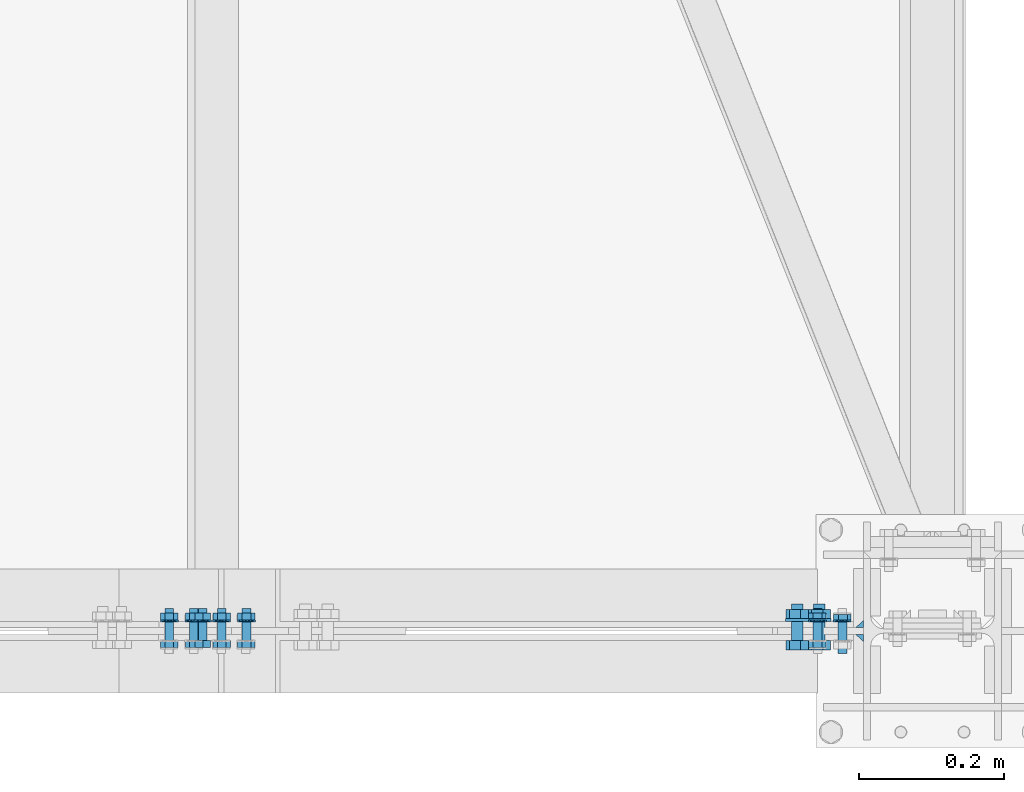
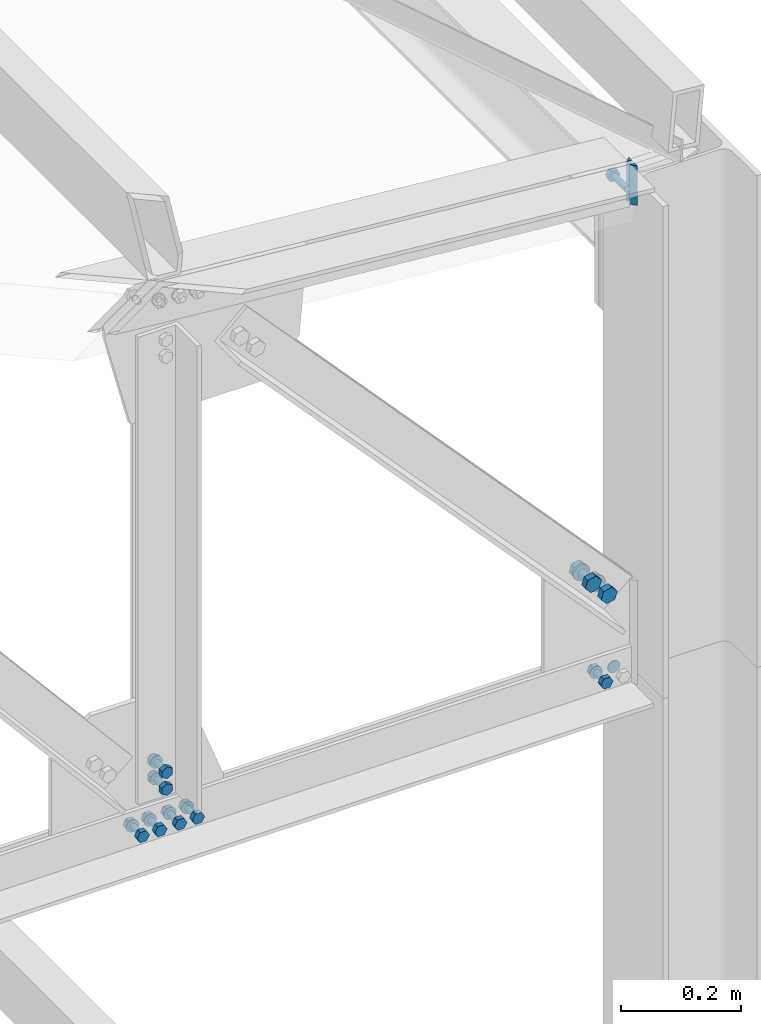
# One storey, part 95 of 251: 39 mechanical fasteners, 2 fasteners.
"""IFC4 building model written with IfcOpenShell, lengths in metres."""

from ifc_helpers import new_model, si_unit, frame, origin_with_axes, place, context, project, spatial, polyline, outline, extrude, type_object, element, save


model = new_model("IFC4")

# Units and contexts
model_context = context("Model", 3, precision=1e-05, world=origin_with_axes())
ifc_project = project(units=[si_unit("LENGTHUNIT", "METRE"), si_unit("AREAUNIT", "SQUARE_METRE"), si_unit("VOLUMEUNIT", "CUBIC_METRE"), si_unit("MASSUNIT", "GRAM", prefix="KILO"), si_unit("TIMEUNIT", "SECOND"), si_unit("PLANEANGLEUNIT", "RADIAN"), si_unit("SOLIDANGLEUNIT", "STERADIAN"), si_unit("THERMODYNAMICTEMPERATUREUNIT", "DEGREE_CELSIUS")], contexts=[model_context])

# Site, building, storey
placement_1 = place(None, origin_with_axes())
site = spatial("IfcSite", under=ifc_project, at=placement_1, Name="Italia", CompositionType="ELEMENT")
building = spatial("IfcBuilding", under=site, at=placement_1, Name="Deposito", CompositionType="ELEMENT")
storey = spatial("IfcBuildingStorey", under=building, at=placement_1, Name="Storey 0", CompositionType="ELEMENT", Elevation=0.0)

# Mechanical fasteners
mechanical_fastener_type_1 = type_object("IfcMechanicalFastenerType", Name="Reticolare 2", PredefinedType="BOLT")
placement_2 = place(placement_1, origin_with_axes())
mechanical_fastener_1_placement = place(placement_2, origin_with_axes())
element("IfcMechanicalFastener", 1, at=mechanical_fastener_1_placement, inside=storey, type_object=mechanical_fastener_type_1, Name="Reticolare 2", NominalDiameter=0.024, context=model_context, shape_type="SweptSolid", body=[
    extrude(outline(polyline([(0.0, 0.0), (-0.000408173, -0.00310564), (-0.00160599, -0.00600004), (-0.00351334, -0.00848532), (-0.00599861, -0.0103922), (-0.00889397, -0.011591), (-0.0119991, -0.0120001), (-0.0151043, -0.011591), (-0.0179996, -0.0103922), (-0.0204849, -0.00848532), (-0.0223923, -0.00600004), (-0.0235901, -0.00310564), (-0.0239983, 0.0), (-0.0235901, 0.00310564), (-0.0223923, 0.00600004), (-0.0204849, 0.00848532), (-0.0179996, 0.0103922), (-0.0151043, 0.011591), (-0.0119991, 0.0120001), (-0.00889397, 0.011591), (-0.00599861, 0.0103922), (-0.00351334, 0.00848532), (-0.00160599, 0.00600004), (-0.000408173, 0.00310564), (0.0, 0.0)])), frame((19.8879, 0.015, 5.007), z_axis=(0.0, -1.0, 0.0), x_axis=(1.0, 0.0, 0.0)), (0.0, 0.0, 1.0), 0.002),
])
mechanical_fastener_type_2 = type_object("IfcMechanicalFastenerType", Name="Reticolare 2", PredefinedType="BOLT")
mechanical_fastener_2_placement = place(placement_2, origin_with_axes())
element("IfcMechanicalFastener", 2, at=mechanical_fastener_2_placement, inside=storey, type_object=mechanical_fastener_type_2, Name="Reticolare 2", NominalDiameter=0.0119991, context=model_context, shape_type="SweptSolid", body=[
    extrude(outline(polyline([(0.0, 0.0), (-0.0119991, 0.0), (-0.0179996, 0.0103922), (-0.0119991, 0.0207844), (0.0, 0.0207844), (0.00600052, 0.0103922), (0.0, 0.0)])), frame((19.8479, -0.013, 4.99661), z_axis=(0.0, -1.0, 0.0), x_axis=(1.0, 0.0, 0.0)), (0.0, 0.0, 1.0), 0.0096),
])
mechanical_fastener_type_3 = type_object("IfcMechanicalFastenerType", Name="Reticolare 2", PredefinedType="BOLT")
mechanical_fastener_3_placement = place(placement_2, origin_with_axes())
element("IfcMechanicalFastener", 3, at=mechanical_fastener_3_placement, inside=storey, type_object=mechanical_fastener_type_3, Name="Reticolare 2", NominalDiameter=0.012, context=model_context, shape_type="SweptSolid", body=[
    extrude(outline(polyline([(0.0, 0.0), (-0.000204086, -0.00155306), (-0.000804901, -0.00299978), (-0.00175858, -0.00424242), (-0.00300026, -0.00519609), (-0.00444794, -0.00579548), (-0.00600052, -0.00600004), (-0.0075531, -0.00579548), (-0.00900078, -0.00519609), (-0.0102425, -0.00424242), (-0.0111961, -0.00299978), (-0.011797, -0.00155306), (-0.012001, 0.0), (-0.011797, 0.00155306), (-0.0111961, 0.00299978), (-0.0102425, 0.00424242), (-0.00900078, 0.00519609), (-0.0075531, 0.00579548), (-0.00600052, 0.00600004), (-0.00444794, 0.00579548), (-0.00300026, 0.00519609), (-0.00175858, 0.00424242), (-0.000804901, 0.00299978), (-0.000204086, 0.00155306), (0.0, 0.0)])), frame((19.8479, 0.031, 5.007), z_axis=(0.0, -1.0, 0.0), x_axis=(1.0, 0.0, 0.0)), (0.0, 0.0, 1.0), 0.044),
])
mechanical_fastener_type_4 = type_object("IfcMechanicalFastenerType", Name="Reticolare 2", PredefinedType="BOLT")
mechanical_fastener_4_placement = place(placement_2, origin_with_axes())
element("IfcMechanicalFastener", 4, at=mechanical_fastener_4_placement, inside=storey, type_object=mechanical_fastener_type_4, Name="Reticolare 2", NominalDiameter=0.0119991, context=model_context, shape_type="SweptSolid", body=[
    extrude(outline(polyline([(0.0, 0.0), (-0.0119991, 0.0), (-0.0179996, 0.0103922), (-0.0119991, 0.0207844), (0.0, 0.0207844), (0.00600052, 0.0103922), (0.0, 0.0)])), frame((19.8479, 0.0246, 4.99661), z_axis=(0.0, -1.0, 0.0), x_axis=(1.0, 0.0, 0.0)), (0.0, 0.0, 1.0), 0.0096),
])
mechanical_fastener_type_5 = type_object("IfcMechanicalFastenerType", Name="Reticolare 2", PredefinedType="BOLT")
mechanical_fastener_5_placement = place(placement_2, origin_with_axes())
element("IfcMechanicalFastener", 5, at=mechanical_fastener_5_placement, inside=storey, type_object=mechanical_fastener_type_5, Name="Reticolare 2", NominalDiameter=0.024, context=model_context, shape_type="SweptSolid", body=[
    extrude(outline(polyline([(0.0, 0.0), (-0.000408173, -0.00310564), (-0.00160599, -0.00600004), (-0.00351334, -0.00848532), (-0.00599861, -0.0103922), (-0.00889397, -0.011591), (-0.0119991, -0.0120001), (-0.0151043, -0.011591), (-0.0179996, -0.0103922), (-0.0204849, -0.00848532), (-0.0223923, -0.00600004), (-0.0235901, -0.00310564), (-0.0239983, 0.0), (-0.0235901, 0.00310564), (-0.0223923, 0.00600004), (-0.0204849, 0.00848532), (-0.0179996, 0.0103922), (-0.0151043, 0.011591), (-0.0119991, 0.0120001), (-0.00889397, 0.011591), (-0.00599861, 0.0103922), (-0.00351334, 0.00848532), (-0.00160599, 0.00600004), (-0.000408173, 0.00310564), (0.0, 0.0)])), frame((19.8539, 0.015, 5.007), z_axis=(0.0, -1.0, 0.0), x_axis=(1.0, 0.0, 0.0)), (0.0, 0.0, 1.0), 0.002),
])
mechanical_fastener_type_6 = type_object("IfcMechanicalFastenerType", Name="Reticolare 2", PredefinedType="BOLT")
mechanical_fastener_6_placement = place(placement_2, origin_with_axes())
element("IfcMechanicalFastener", 6, at=mechanical_fastener_6_placement, inside=storey, type_object=mechanical_fastener_type_6, Name="Reticolare 2", NominalDiameter=0.0159985, context=model_context, shape_type="SweptSolid", body=[
    extrude(outline(polyline([(0.0, 0.0), (-0.0108109, 0.0117965), (-0.00599861, 0.0270557), (0.00962257, 0.030519), (0.0204315, 0.0187225), (0.0156193, 0.00346279), (0.0, 0.0)])), frame((19.8397, -0.013, 5.17076), z_axis=(0.0, -1.0, 0.0), x_axis=(1.0, 0.0, 0.0)), (0.0, 0.0, 1.0), 0.0128),
])
mechanical_fastener_type_7 = type_object("IfcMechanicalFastenerType", Name="Reticolare 2", PredefinedType="BOLT")
mechanical_fastener_7_placement = place(placement_2, origin_with_axes())
element("IfcMechanicalFastener", 7, at=mechanical_fastener_7_placement, inside=storey, type_object=mechanical_fastener_type_7, Name="Reticolare 2", NominalDiameter=0.016, context=model_context, shape_type="SweptSolid", body=[
    extrude(outline(polyline([(0.0, 0.0), (-0.000272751, -0.00207043), (-0.00107193, -0.00400019), (-0.00234222, -0.00565672), (-0.00399971, -0.00692797), (-0.00592804, -0.00772762), (-0.00799942, -0.0079999), (-0.0100708, -0.00772762), (-0.0119991, -0.00692797), (-0.0136566, -0.00565672), (-0.0149269, -0.00400019), (-0.0157261, -0.00207043), (-0.0159988, 0.0), (-0.0157261, 0.00207043), (-0.0149269, 0.00400019), (-0.0136566, 0.00565672), (-0.0119991, 0.00692797), (-0.0100708, 0.00772762), (-0.00799942, 0.0079999), (-0.00592804, 0.00772762), (-0.00399971, 0.00692797), (-0.00234222, 0.00565672), (-0.00107193, 0.00400019), (-0.000272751, 0.00207043), (0.0, 0.0)])), frame((19.8525, 0.037, 5.18602), z_axis=(0.0, -1.0, 0.0), x_axis=(1.0, 0.0, 0.0)), (0.0, 0.0, 1.0), 0.05),
])
mechanical_fastener_type_8 = type_object("IfcMechanicalFastenerType", Name="Reticolare 2", PredefinedType="BOLT")
mechanical_fastener_8_placement = place(placement_2, origin_with_axes())
element("IfcMechanicalFastener", 8, at=mechanical_fastener_8_placement, inside=storey, type_object=mechanical_fastener_type_8, Name="Reticolare 2", NominalDiameter=0.0159985, context=model_context, shape_type="SweptSolid", body=[
    extrude(outline(polyline([(0.0, 0.0), (-0.0108109, 0.0117965), (-0.00599861, 0.0270557), (0.00962257, 0.030519), (0.0204315, 0.0187225), (0.0156193, 0.00346279), (0.0, 0.0)])), frame((19.8397, 0.0298, 5.17076), z_axis=(0.0, -1.0, 0.0), x_axis=(1.0, 0.0, 0.0)), (0.0, 0.0, 1.0), 0.0128),
])
mechanical_fastener_type_9 = type_object("IfcMechanicalFastenerType", Name="Reticolare 2", PredefinedType="BOLT")
mechanical_fastener_9_placement = place(placement_2, origin_with_axes())
element("IfcMechanicalFastener", 9, at=mechanical_fastener_9_placement, inside=storey, type_object=mechanical_fastener_type_9, Name="Reticolare 2", NominalDiameter=0.032, context=model_context, shape_type="SweptSolid", body=[
    extrude(outline(polyline([(0.0, 0.0), (-0.000545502, -0.00414133), (-0.00214386, -0.0079999), (-0.00468636, -0.0113139), (-0.00800133, -0.0138564), (-0.0118599, -0.0154548), (-0.0160007, -0.0159998), (-0.0201416, -0.0154548), (-0.0240002, -0.0138564), (-0.0273151, -0.0113139), (-0.0298576, -0.0079999), (-0.031456, -0.00414133), (-0.0320015, 0.0), (-0.031456, 0.00414133), (-0.0298576, 0.0079999), (-0.0273151, 0.0113139), (-0.0240002, 0.0138564), (-0.0201416, 0.0154548), (-0.0160007, 0.0159998), (-0.0118599, 0.0154548), (-0.00800133, 0.0138564), (-0.00468636, 0.0113139), (-0.00214386, 0.0079999), (-0.000545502, 0.00414133), (0.0, 0.0)])), frame((19.8605, 0.017, 5.18602), z_axis=(0.0, -1.0, 0.0), x_axis=(1.0, 0.0, 0.0)), (0.0, 0.0, 1.0), 0.004),
])
mechanical_fastener_type_10 = type_object("IfcMechanicalFastenerType", Name="Reticolare 2", PredefinedType="BOLT")
mechanical_fastener_10_placement = place(placement_2, origin_with_axes())
element("IfcMechanicalFastener", 10, at=mechanical_fastener_10_placement, inside=storey, type_object=mechanical_fastener_type_10, Name="Reticolare 2", NominalDiameter=0.0159985, context=model_context, shape_type="SweptSolid", body=[
    extrude(outline(polyline([(0.0, 0.0), (-0.0108089, 0.0117965), (-0.0059967, 0.0270562), (0.00962257, 0.030519), (0.0204334, 0.0187225), (0.0156212, 0.00346327), (0.0, 0.0)])), frame((19.8093, -0.013, 5.20394), z_axis=(0.0, -1.0, 0.0), x_axis=(1.0, 0.0, 0.0)), (0.0, 0.0, 1.0), 0.0128),
])
mechanical_fastener_type_11 = type_object("IfcMechanicalFastenerType", Name="Reticolare 2", PredefinedType="BOLT")
mechanical_fastener_11_placement = place(placement_2, origin_with_axes())
element("IfcMechanicalFastener", 11, at=mechanical_fastener_11_placement, inside=storey, type_object=mechanical_fastener_type_11, Name="Reticolare 2", NominalDiameter=0.016, context=model_context, shape_type="SweptSolid", body=[
    extrude(outline(polyline([(0.0, 0.0), (-0.000272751, -0.00207043), (-0.00107193, -0.00400019), (-0.00234222, -0.00565672), (-0.00399971, -0.00692797), (-0.00592804, -0.00772762), (-0.00799942, -0.0079999), (-0.0100708, -0.00772762), (-0.0119991, -0.00692797), (-0.0136566, -0.00565672), (-0.0149269, -0.00400019), (-0.0157261, -0.00207043), (-0.0159988, 0.0), (-0.0157261, 0.00207043), (-0.0149269, 0.00400019), (-0.0136566, 0.00565672), (-0.0119991, 0.00692797), (-0.0100708, 0.00772762), (-0.00799942, 0.0079999), (-0.00592804, 0.00772762), (-0.00399971, 0.00692797), (-0.00234222, 0.00565672), (-0.00107193, 0.00400019), (-0.000272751, 0.00207043), (0.0, 0.0)])), frame((19.8221, 0.037, 5.2192), z_axis=(0.0, -1.0, 0.0), x_axis=(1.0, 0.0, 0.0)), (0.0, 0.0, 1.0), 0.05),
])
mechanical_fastener_type_12 = type_object("IfcMechanicalFastenerType", Name="Reticolare 2", PredefinedType="BOLT")
mechanical_fastener_12_placement = place(placement_2, origin_with_axes())
element("IfcMechanicalFastener", 12, at=mechanical_fastener_12_placement, inside=storey, type_object=mechanical_fastener_type_12, Name="Reticolare 2", NominalDiameter=0.0159985, context=model_context, shape_type="SweptSolid", body=[
    extrude(outline(polyline([(0.0, 0.0), (-0.0108089, 0.0117965), (-0.0059967, 0.0270562), (0.00962257, 0.030519), (0.0204334, 0.0187225), (0.0156212, 0.00346327), (0.0, 0.0)])), frame((19.8093, 0.0298, 5.20394), z_axis=(0.0, -1.0, 0.0), x_axis=(1.0, 0.0, 0.0)), (0.0, 0.0, 1.0), 0.0128),
])
mechanical_fastener_type_13 = type_object("IfcMechanicalFastenerType", Name="Reticolare 2", PredefinedType="BOLT")
mechanical_fastener_13_placement = place(placement_2, origin_with_axes())
element("IfcMechanicalFastener", 13, at=mechanical_fastener_13_placement, inside=storey, type_object=mechanical_fastener_type_13, Name="Reticolare 2", NominalDiameter=0.032, context=model_context, shape_type="SweptSolid", body=[
    extrude(outline(polyline([(0.0, 0.0), (-0.000545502, -0.00414133), (-0.00214386, -0.0079999), (-0.00468636, -0.0113139), (-0.00800133, -0.0138564), (-0.0118599, -0.0154548), (-0.0160007, -0.0159998), (-0.0201416, -0.0154548), (-0.0240002, -0.0138564), (-0.0273151, -0.0113139), (-0.0298576, -0.0079999), (-0.031456, -0.00414133), (-0.0320015, 0.0), (-0.031456, 0.00414133), (-0.0298576, 0.0079999), (-0.0273151, 0.0113139), (-0.0240002, 0.0138564), (-0.0201416, 0.0154548), (-0.0160007, 0.0159998), (-0.0118599, 0.0154548), (-0.00800133, 0.0138564), (-0.00468636, 0.0113139), (-0.00214386, 0.0079999), (-0.000545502, 0.00414133), (0.0, 0.0)])), frame((19.8301, 0.017, 5.2192), z_axis=(0.0, -1.0, 0.0), x_axis=(1.0, 0.0, 0.0)), (0.0, 0.0, 1.0), 0.004),
])
mechanical_fastener_type_14 = type_object("IfcMechanicalFastenerType", Name="Reticolare 2", PredefinedType="BOLT")
mechanical_fastener_14_placement = place(placement_2, origin_with_axes())
element("IfcMechanicalFastener", 14, at=mechanical_fastener_14_placement, inside=storey, type_object=mechanical_fastener_type_14, Name="Reticolare 2", NominalDiameter=0.0119991, context=model_context, shape_type="SweptSolid", body=[
    extrude(outline(polyline([(0.0, 0.0), (-0.0119991, 0.0), (-0.0179996, 0.0103922), (-0.0119991, 0.0207844), (0.0, 0.0207844), (0.00600052, 0.0103922), (0.0, 0.0)])), frame((18.9908, -0.013, 4.99661), z_axis=(0.0, -1.0, 0.0), x_axis=(1.0, 0.0, 0.0)), (0.0, 0.0, 1.0), 0.0096),
])
mechanical_fastener_type_15 = type_object("IfcMechanicalFastenerType", Name="Reticolare 2", PredefinedType="BOLT")
mechanical_fastener_15_placement = place(placement_2, origin_with_axes())
element("IfcMechanicalFastener", 15, at=mechanical_fastener_15_placement, inside=storey, type_object=mechanical_fastener_type_15, Name="Reticolare 2", NominalDiameter=0.012, context=model_context, shape_type="SweptSolid", body=[
    extrude(outline(polyline([(0.0, 0.0), (-0.000204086, -0.00155306), (-0.000804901, -0.00299978), (-0.00175858, -0.00424242), (-0.00300026, -0.00519609), (-0.00444794, -0.00579548), (-0.00600052, -0.00600004), (-0.0075531, -0.00579548), (-0.00900078, -0.00519609), (-0.0102425, -0.00424242), (-0.0111961, -0.00299978), (-0.011797, -0.00155306), (-0.012001, 0.0), (-0.011797, 0.00155306), (-0.0111961, 0.00299978), (-0.0102425, 0.00424242), (-0.00900078, 0.00519609), (-0.0075531, 0.00579548), (-0.00600052, 0.00600004), (-0.00444794, 0.00579548), (-0.00300026, 0.00519609), (-0.00175858, 0.00424242), (-0.000804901, 0.00299978), (-0.000204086, 0.00155306), (0.0, 0.0)])), frame((18.9908, 0.031, 5.007), z_axis=(0.0, -1.0, 0.0), x_axis=(1.0, 0.0, 0.0)), (0.0, 0.0, 1.0), 0.044),
])
mechanical_fastener_type_16 = type_object("IfcMechanicalFastenerType", Name="Reticolare 2", PredefinedType="BOLT")
mechanical_fastener_16_placement = place(placement_2, origin_with_axes())
element("IfcMechanicalFastener", 16, at=mechanical_fastener_16_placement, inside=storey, type_object=mechanical_fastener_type_16, Name="Reticolare 2", NominalDiameter=0.0119991, context=model_context, shape_type="SweptSolid", body=[
    extrude(outline(polyline([(0.0, 0.0), (-0.0119991, 0.0), (-0.0179996, 0.0103922), (-0.0119991, 0.0207844), (0.0, 0.0207844), (0.00600052, 0.0103922), (0.0, 0.0)])), frame((18.9908, 0.0246, 4.99661), z_axis=(0.0, -1.0, 0.0), x_axis=(1.0, 0.0, 0.0)), (0.0, 0.0, 1.0), 0.0096),
])
mechanical_fastener_type_17 = type_object("IfcMechanicalFastenerType", Name="Reticolare 2", PredefinedType="BOLT")
mechanical_fastener_17_placement = place(placement_2, origin_with_axes())
element("IfcMechanicalFastener", 17, at=mechanical_fastener_17_placement, inside=storey, type_object=mechanical_fastener_type_17, Name="Reticolare 2", NominalDiameter=0.024, context=model_context, shape_type="SweptSolid", body=[
    extrude(outline(polyline([(0.0, 0.0), (-0.000408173, -0.00310564), (-0.00160599, -0.00600004), (-0.00351334, -0.00848532), (-0.00599861, -0.0103922), (-0.00889397, -0.011591), (-0.0119991, -0.0120001), (-0.0151043, -0.011591), (-0.0179996, -0.0103922), (-0.0204849, -0.00848532), (-0.0223923, -0.00600004), (-0.0235901, -0.00310564), (-0.0239983, 0.0), (-0.0235901, 0.00310564), (-0.0223923, 0.00600004), (-0.0204849, 0.00848532), (-0.0179996, 0.0103922), (-0.0151043, 0.011591), (-0.0119991, 0.0120001), (-0.00889397, 0.011591), (-0.00599861, 0.0103922), (-0.00351334, 0.00848532), (-0.00160599, 0.00600004), (-0.000408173, 0.00310564), (0.0, 0.0)])), frame((18.9968, 0.015, 5.007), z_axis=(0.0, -1.0, 0.0), x_axis=(1.0, 0.0, 0.0)), (0.0, 0.0, 1.0), 0.002),
])
mechanical_fastener_type_18 = type_object("IfcMechanicalFastenerType", Name="Reticolare 2", PredefinedType="BOLT")
mechanical_fastener_18_placement = place(placement_2, origin_with_axes())
element("IfcMechanicalFastener", 18, at=mechanical_fastener_18_placement, inside=storey, type_object=mechanical_fastener_type_18, Name="Reticolare 2", NominalDiameter=0.0119991, context=model_context, shape_type="SweptSolid", body=[
    extrude(outline(polyline([(0.0, 0.0), (-0.0119991, 0.0), (-0.0179996, 0.0103922), (-0.0119991, 0.0207844), (0.0, 0.0207844), (0.00600052, 0.0103922), (0.0, 0.0)])), frame((18.9568, -0.013, 4.99661), z_axis=(0.0, -1.0, 0.0), x_axis=(1.0, 0.0, 0.0)), (0.0, 0.0, 1.0), 0.0096),
])
mechanical_fastener_type_19 = type_object("IfcMechanicalFastenerType", Name="Reticolare 2", PredefinedType="BOLT")
mechanical_fastener_19_placement = place(placement_2, origin_with_axes())
element("IfcMechanicalFastener", 19, at=mechanical_fastener_19_placement, inside=storey, type_object=mechanical_fastener_type_19, Name="Reticolare 2", NominalDiameter=0.012, context=model_context, shape_type="SweptSolid", body=[
    extrude(outline(polyline([(0.0, 0.0), (-0.000204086, -0.00155306), (-0.000804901, -0.00299978), (-0.00175858, -0.00424242), (-0.00300026, -0.00519609), (-0.00444794, -0.00579548), (-0.00600052, -0.00600004), (-0.0075531, -0.00579548), (-0.00900078, -0.00519609), (-0.0102425, -0.00424242), (-0.0111961, -0.00299978), (-0.011797, -0.00155306), (-0.012001, 0.0), (-0.011797, 0.00155306), (-0.0111961, 0.00299978), (-0.0102425, 0.00424242), (-0.00900078, 0.00519609), (-0.0075531, 0.00579548), (-0.00600052, 0.00600004), (-0.00444794, 0.00579548), (-0.00300026, 0.00519609), (-0.00175858, 0.00424242), (-0.000804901, 0.00299978), (-0.000204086, 0.00155306), (0.0, 0.0)])), frame((18.9568, 0.031, 5.007), z_axis=(0.0, -1.0, 0.0), x_axis=(1.0, 0.0, 0.0)), (0.0, 0.0, 1.0), 0.044),
])
mechanical_fastener_type_20 = type_object("IfcMechanicalFastenerType", Name="Reticolare 2", PredefinedType="BOLT")
mechanical_fastener_20_placement = place(placement_2, origin_with_axes())
element("IfcMechanicalFastener", 20, at=mechanical_fastener_20_placement, inside=storey, type_object=mechanical_fastener_type_20, Name="Reticolare 2", NominalDiameter=0.0119991, context=model_context, shape_type="SweptSolid", body=[
    extrude(outline(polyline([(0.0, 0.0), (-0.0119991, 0.0), (-0.0179996, 0.0103922), (-0.0119991, 0.0207844), (0.0, 0.0207844), (0.00600052, 0.0103922), (0.0, 0.0)])), frame((18.9568, 0.0246, 4.99661), z_axis=(0.0, -1.0, 0.0), x_axis=(1.0, 0.0, 0.0)), (0.0, 0.0, 1.0), 0.0096),
])
mechanical_fastener_type_21 = type_object("IfcMechanicalFastenerType", Name="Reticolare 2", PredefinedType="BOLT")
mechanical_fastener_21_placement = place(placement_2, origin_with_axes())
element("IfcMechanicalFastener", 21, at=mechanical_fastener_21_placement, inside=storey, type_object=mechanical_fastener_type_21, Name="Reticolare 2", NominalDiameter=0.024, context=model_context, shape_type="SweptSolid", body=[
    extrude(outline(polyline([(0.0, 0.0), (-0.000408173, -0.00310564), (-0.00160599, -0.00600004), (-0.00351334, -0.00848532), (-0.00599861, -0.0103922), (-0.00889397, -0.011591), (-0.0119991, -0.0120001), (-0.0151043, -0.011591), (-0.0179996, -0.0103922), (-0.0204849, -0.00848532), (-0.0223923, -0.00600004), (-0.0235901, -0.00310564), (-0.0239983, 0.0), (-0.0235901, 0.00310564), (-0.0223923, 0.00600004), (-0.0204849, 0.00848532), (-0.0179996, 0.0103922), (-0.0151043, 0.011591), (-0.0119991, 0.0120001), (-0.00889397, 0.011591), (-0.00599861, 0.0103922), (-0.00351334, 0.00848532), (-0.00160599, 0.00600004), (-0.000408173, 0.00310564), (0.0, 0.0)])), frame((18.9628, 0.015, 5.007), z_axis=(0.0, -1.0, 0.0), x_axis=(1.0, 0.0, 0.0)), (0.0, 0.0, 1.0), 0.002),
])
mechanical_fastener_type_22 = type_object("IfcMechanicalFastenerType", Name="Reticolare 2", PredefinedType="BOLT")
mechanical_fastener_22_placement = place(placement_2, origin_with_axes())
element("IfcMechanicalFastener", 22, at=mechanical_fastener_22_placement, inside=storey, type_object=mechanical_fastener_type_22, Name="Reticolare 2", NominalDiameter=0.0119991, context=model_context, shape_type="SweptSolid", body=[
    extrude(outline(polyline([(0.0, 0.0), (-0.0119991, 0.0), (-0.0179996, 0.0103922), (-0.0119991, 0.0207844), (0.0, 0.0207844), (0.00600052, 0.0103922), (0.0, 0.0)])), frame((19.0288, -0.013, 4.99661), z_axis=(0.0, -1.0, 0.0), x_axis=(1.0, 0.0, 0.0)), (0.0, 0.0, 1.0), 0.0096),
])
mechanical_fastener_type_23 = type_object("IfcMechanicalFastenerType", Name="Reticolare 2", PredefinedType="BOLT")
mechanical_fastener_23_placement = place(placement_2, origin_with_axes())
element("IfcMechanicalFastener", 23, at=mechanical_fastener_23_placement, inside=storey, type_object=mechanical_fastener_type_23, Name="Reticolare 2", NominalDiameter=0.012, context=model_context, shape_type="SweptSolid", body=[
    extrude(outline(polyline([(0.0, 0.0), (-0.000204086, -0.00155306), (-0.000804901, -0.00299978), (-0.00175858, -0.00424242), (-0.00300026, -0.00519609), (-0.00444794, -0.00579548), (-0.00600052, -0.00600004), (-0.0075531, -0.00579548), (-0.00900078, -0.00519609), (-0.0102425, -0.00424242), (-0.0111961, -0.00299978), (-0.011797, -0.00155306), (-0.012001, 0.0), (-0.011797, 0.00155306), (-0.0111961, 0.00299978), (-0.0102425, 0.00424242), (-0.00900078, 0.00519609), (-0.0075531, 0.00579548), (-0.00600052, 0.00600004), (-0.00444794, 0.00579548), (-0.00300026, 0.00519609), (-0.00175858, 0.00424242), (-0.000804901, 0.00299978), (-0.000204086, 0.00155306), (0.0, 0.0)])), frame((19.0288, 0.031, 5.007), z_axis=(0.0, -1.0, 0.0), x_axis=(1.0, 0.0, 0.0)), (0.0, 0.0, 1.0), 0.044),
])
mechanical_fastener_type_24 = type_object("IfcMechanicalFastenerType", Name="Reticolare 2", PredefinedType="BOLT")
mechanical_fastener_24_placement = place(placement_2, origin_with_axes())
element("IfcMechanicalFastener", 24, at=mechanical_fastener_24_placement, inside=storey, type_object=mechanical_fastener_type_24, Name="Reticolare 2", NominalDiameter=0.0119991, context=model_context, shape_type="SweptSolid", body=[
    extrude(outline(polyline([(0.0, 0.0), (-0.0119991, 0.0), (-0.0179996, 0.0103922), (-0.0119991, 0.0207844), (0.0, 0.0207844), (0.00600052, 0.0103922), (0.0, 0.0)])), frame((19.0288, 0.0246, 4.99661), z_axis=(0.0, -1.0, 0.0), x_axis=(1.0, 0.0, 0.0)), (0.0, 0.0, 1.0), 0.0096),
])
mechanical_fastener_type_25 = type_object("IfcMechanicalFastenerType", Name="Reticolare 2", PredefinedType="BOLT")
mechanical_fastener_25_placement = place(placement_2, origin_with_axes())
element("IfcMechanicalFastener", 25, at=mechanical_fastener_25_placement, inside=storey, type_object=mechanical_fastener_type_25, Name="Reticolare 2", NominalDiameter=0.024, context=model_context, shape_type="SweptSolid", body=[
    extrude(outline(polyline([(0.0, 0.0), (-0.000408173, -0.00310564), (-0.00160599, -0.00600004), (-0.00351334, -0.00848532), (-0.00599861, -0.0103922), (-0.00889397, -0.011591), (-0.0119991, -0.0120001), (-0.0151043, -0.011591), (-0.0179996, -0.0103922), (-0.0204849, -0.00848532), (-0.0223923, -0.00600004), (-0.0235901, -0.00310564), (-0.0239983, 0.0), (-0.0235901, 0.00310564), (-0.0223923, 0.00600004), (-0.0204849, 0.00848532), (-0.0179996, 0.0103922), (-0.0151043, 0.011591), (-0.0119991, 0.0120001), (-0.00889397, 0.011591), (-0.00599861, 0.0103922), (-0.00351334, 0.00848532), (-0.00160599, 0.00600004), (-0.000408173, 0.00310564), (0.0, 0.0)])), frame((19.0348, 0.015, 5.007), z_axis=(0.0, -1.0, 0.0), x_axis=(1.0, 0.0, 0.0)), (0.0, 0.0, 1.0), 0.002),
])
mechanical_fastener_type_26 = type_object("IfcMechanicalFastenerType", Name="Reticolare 2", PredefinedType="BOLT")
mechanical_fastener_26_placement = place(placement_2, origin_with_axes())
element("IfcMechanicalFastener", 26, at=mechanical_fastener_26_placement, inside=storey, type_object=mechanical_fastener_type_26, Name="Reticolare 2", NominalDiameter=0.0119991, context=model_context, shape_type="SweptSolid", body=[
    extrude(outline(polyline([(0.0, 0.0), (-0.0119991, 0.0), (-0.0179996, 0.0103922), (-0.0119991, 0.0207844), (0.0, 0.0207844), (0.00600052, 0.0103922), (0.0, 0.0)])), frame((19.0628, -0.013, 4.99661), z_axis=(0.0, -1.0, 0.0), x_axis=(1.0, 0.0, 0.0)), (0.0, 0.0, 1.0), 0.0096),
])
mechanical_fastener_type_27 = type_object("IfcMechanicalFastenerType", Name="Reticolare 2", PredefinedType="BOLT")
mechanical_fastener_27_placement = place(placement_2, origin_with_axes())
element("IfcMechanicalFastener", 27, at=mechanical_fastener_27_placement, inside=storey, type_object=mechanical_fastener_type_27, Name="Reticolare 2", NominalDiameter=0.012, context=model_context, shape_type="SweptSolid", body=[
    extrude(outline(polyline([(0.0, 0.0), (-0.000204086, -0.00155306), (-0.000804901, -0.00299978), (-0.00175858, -0.00424242), (-0.00300026, -0.00519609), (-0.00444794, -0.00579548), (-0.00600052, -0.00600004), (-0.0075531, -0.00579548), (-0.00900078, -0.00519609), (-0.0102425, -0.00424242), (-0.0111961, -0.00299978), (-0.011797, -0.00155306), (-0.012001, 0.0), (-0.011797, 0.00155306), (-0.0111961, 0.00299978), (-0.0102425, 0.00424242), (-0.00900078, 0.00519609), (-0.0075531, 0.00579548), (-0.00600052, 0.00600004), (-0.00444794, 0.00579548), (-0.00300026, 0.00519609), (-0.00175858, 0.00424242), (-0.000804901, 0.00299978), (-0.000204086, 0.00155306), (0.0, 0.0)])), frame((19.0628, 0.031, 5.007), z_axis=(0.0, -1.0, 0.0), x_axis=(1.0, 0.0, 0.0)), (0.0, 0.0, 1.0), 0.044),
])
mechanical_fastener_type_28 = type_object("IfcMechanicalFastenerType", Name="Reticolare 2", PredefinedType="BOLT")
mechanical_fastener_28_placement = place(placement_2, origin_with_axes())
element("IfcMechanicalFastener", 28, at=mechanical_fastener_28_placement, inside=storey, type_object=mechanical_fastener_type_28, Name="Reticolare 2", NominalDiameter=0.0119991, context=model_context, shape_type="SweptSolid", body=[
    extrude(outline(polyline([(0.0, 0.0), (-0.0119991, 0.0), (-0.0179996, 0.0103922), (-0.0119991, 0.0207844), (0.0, 0.0207844), (0.00600052, 0.0103922), (0.0, 0.0)])), frame((19.0628, 0.0246, 4.99661), z_axis=(0.0, -1.0, 0.0), x_axis=(1.0, 0.0, 0.0)), (0.0, 0.0, 1.0), 0.0096),
])
mechanical_fastener_type_29 = type_object("IfcMechanicalFastenerType", Name="Reticolare 2", PredefinedType="BOLT")
mechanical_fastener_29_placement = place(placement_2, origin_with_axes())
element("IfcMechanicalFastener", 29, at=mechanical_fastener_29_placement, inside=storey, type_object=mechanical_fastener_type_29, Name="Reticolare 2", NominalDiameter=0.024, context=model_context, shape_type="SweptSolid", body=[
    extrude(outline(polyline([(0.0, 0.0), (-0.000408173, -0.00310564), (-0.00160599, -0.00600004), (-0.00351334, -0.00848532), (-0.00599861, -0.0103922), (-0.00889397, -0.011591), (-0.0119991, -0.0120001), (-0.0151043, -0.011591), (-0.0179996, -0.0103922), (-0.0204849, -0.00848532), (-0.0223923, -0.00600004), (-0.0235901, -0.00310564), (-0.0239983, 0.0), (-0.0235901, 0.00310564), (-0.0223923, 0.00600004), (-0.0204849, 0.00848532), (-0.0179996, 0.0103922), (-0.0151043, 0.011591), (-0.0119991, 0.0120001), (-0.00889397, 0.011591), (-0.00599861, 0.0103922), (-0.00351334, 0.00848532), (-0.00160599, 0.00600004), (-0.000408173, 0.00310564), (0.0, 0.0)])), frame((19.0688, 0.015, 5.007), z_axis=(0.0, -1.0, 0.0), x_axis=(1.0, 0.0, 0.0)), (0.0, 0.0, 1.0), 0.002),
])
mechanical_fastener_type_30 = type_object("IfcMechanicalFastenerType", Name="Reticolare 2", PredefinedType="BOLT")
mechanical_fastener_30_placement = place(placement_2, origin_with_axes())
element("IfcMechanicalFastener", 30, at=mechanical_fastener_30_placement, inside=storey, type_object=mechanical_fastener_type_30, Name="Reticolare 2", NominalDiameter=0.0120001, context=model_context, shape_type="SweptSolid", body=[
    extrude(outline(polyline([(0.0, 0.0), (0.0, -0.0120001), (-0.0103931, -0.0180001), (-0.0207863, -0.0120001), (-0.0207863, 0.0), (-0.0103931, 0.00600004), (0.0, 0.0)])), frame((19.0072, -0.013, 5.09253), z_axis=(0.0, -1.0, 0.0), x_axis=(1.0, 0.0, 0.0)), (0.0, 0.0, 1.0), 0.0096),
])
mechanical_fastener_type_31 = type_object("IfcMechanicalFastenerType", Name="Reticolare 2", PredefinedType="BOLT")
mechanical_fastener_31_placement = place(placement_2, origin_with_axes())
element("IfcMechanicalFastener", 31, at=mechanical_fastener_31_placement, inside=storey, type_object=mechanical_fastener_type_31, Name="Reticolare 2", NominalDiameter=0.012, context=model_context, shape_type="SweptSolid", body=[
    extrude(outline(polyline([(0.0, 0.0), (-0.000204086, -0.00155306), (-0.000804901, -0.00299978), (-0.00175858, -0.00424242), (-0.00300026, -0.00519609), (-0.00444794, -0.00579548), (-0.00600052, -0.00600004), (-0.0075531, -0.00579548), (-0.00900078, -0.00519609), (-0.0102425, -0.00424242), (-0.0111961, -0.00299978), (-0.011797, -0.00155306), (-0.012001, 0.0), (-0.011797, 0.00155306), (-0.0111961, 0.00299978), (-0.0102425, 0.00424242), (-0.00900078, 0.00519609), (-0.0075531, 0.00579548), (-0.00600052, 0.00600004), (-0.00444794, 0.00579548), (-0.00300026, 0.00519609), (-0.00175858, 0.00424242), (-0.000804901, 0.00299978), (-0.000204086, 0.00155306), (0.0, 0.0)])), frame((19.0028, 0.031, 5.08653), z_axis=(0.0, -1.0, 0.0), x_axis=(1.0, 0.0, 0.0)), (0.0, 0.0, 1.0), 0.044),
])
mechanical_fastener_type_32 = type_object("IfcMechanicalFastenerType", Name="Reticolare 2", PredefinedType="BOLT")
mechanical_fastener_32_placement = place(placement_2, origin_with_axes())
element("IfcMechanicalFastener", 32, at=mechanical_fastener_32_placement, inside=storey, type_object=mechanical_fastener_type_32, Name="Reticolare 2", NominalDiameter=0.0120001, context=model_context, shape_type="SweptSolid", body=[
    extrude(outline(polyline([(0.0, 0.0), (0.0, -0.0120001), (-0.0103931, -0.0180001), (-0.0207863, -0.0120001), (-0.0207863, 0.0), (-0.0103931, 0.00600004), (0.0, 0.0)])), frame((19.0072, 0.0246, 5.09253), z_axis=(0.0, -1.0, 0.0), x_axis=(1.0, 0.0, 0.0)), (0.0, 0.0, 1.0), 0.0096),
])
mechanical_fastener_type_33 = type_object("IfcMechanicalFastenerType", Name="Reticolare 2", PredefinedType="BOLT")
mechanical_fastener_33_placement = place(placement_2, origin_with_axes())
element("IfcMechanicalFastener", 33, at=mechanical_fastener_33_placement, inside=storey, type_object=mechanical_fastener_type_33, Name="Reticolare 2", NominalDiameter=0.024, context=model_context, shape_type="SweptSolid", body=[
    extrude(outline(polyline([(0.0, 0.0), (-0.000408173, -0.00310564), (-0.00160599, -0.00600004), (-0.00351334, -0.00848532), (-0.00599861, -0.0103922), (-0.00889397, -0.011591), (-0.0119991, -0.0120001), (-0.0151043, -0.011591), (-0.0179996, -0.0103922), (-0.0204849, -0.00848532), (-0.0223923, -0.00600004), (-0.0235901, -0.00310564), (-0.0239983, 0.0), (-0.0235901, 0.00310564), (-0.0223923, 0.00600004), (-0.0204849, 0.00848532), (-0.0179996, 0.0103922), (-0.0151043, 0.011591), (-0.0119991, 0.0120001), (-0.00889397, 0.011591), (-0.00599861, 0.0103922), (-0.00351334, 0.00848532), (-0.00160599, 0.00600004), (-0.000408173, 0.00310564), (0.0, 0.0)])), frame((19.0088, 0.015, 5.08653), z_axis=(0.0, -1.0, 0.0), x_axis=(1.0, 0.0, 0.0)), (0.0, 0.0, 1.0), 0.002),
])
mechanical_fastener_type_34 = type_object("IfcMechanicalFastenerType", Name="Reticolare 2", PredefinedType="BOLT")
mechanical_fastener_34_placement = place(placement_2, origin_with_axes())
element("IfcMechanicalFastener", 34, at=mechanical_fastener_34_placement, inside=storey, type_object=mechanical_fastener_type_34, Name="Reticolare 2", NominalDiameter=0.0120001, context=model_context, shape_type="SweptSolid", body=[
    extrude(outline(polyline([(0.0, 0.0), (0.0, -0.0120001), (-0.0103931, -0.0180001), (-0.0207863, -0.0120001), (-0.0207863, 0.0), (-0.0103931, 0.00600004), (0.0, 0.0)])), frame((19.0072, -0.013, 5.12653), z_axis=(0.0, -1.0, 0.0), x_axis=(1.0, 0.0, 0.0)), (0.0, 0.0, 1.0), 0.0096),
])
mechanical_fastener_type_35 = type_object("IfcMechanicalFastenerType", Name="Reticolare 2", PredefinedType="BOLT")
mechanical_fastener_35_placement = place(placement_2, origin_with_axes())
element("IfcMechanicalFastener", 35, at=mechanical_fastener_35_placement, inside=storey, type_object=mechanical_fastener_type_35, Name="Reticolare 2", NominalDiameter=0.012, context=model_context, shape_type="SweptSolid", body=[
    extrude(outline(polyline([(0.0, 0.0), (-0.000204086, -0.00155306), (-0.000804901, -0.00299978), (-0.00175858, -0.00424242), (-0.00300026, -0.00519609), (-0.00444794, -0.00579548), (-0.00600052, -0.00600004), (-0.0075531, -0.00579548), (-0.00900078, -0.00519609), (-0.0102425, -0.00424242), (-0.0111961, -0.00299978), (-0.011797, -0.00155306), (-0.012001, 0.0), (-0.011797, 0.00155306), (-0.0111961, 0.00299978), (-0.0102425, 0.00424242), (-0.00900078, 0.00519609), (-0.0075531, 0.00579548), (-0.00600052, 0.00600004), (-0.00444794, 0.00579548), (-0.00300026, 0.00519609), (-0.00175858, 0.00424242), (-0.000804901, 0.00299978), (-0.000204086, 0.00155306), (0.0, 0.0)])), frame((19.0028, 0.031, 5.12053), z_axis=(0.0, -1.0, 0.0), x_axis=(1.0, 0.0, 0.0)), (0.0, 0.0, 1.0), 0.044),
])
mechanical_fastener_type_36 = type_object("IfcMechanicalFastenerType", Name="Reticolare 2", PredefinedType="BOLT")
mechanical_fastener_36_placement = place(placement_2, origin_with_axes())
element("IfcMechanicalFastener", 36, at=mechanical_fastener_36_placement, inside=storey, type_object=mechanical_fastener_type_36, Name="Reticolare 2", NominalDiameter=0.0120001, context=model_context, shape_type="SweptSolid", body=[
    extrude(outline(polyline([(0.0, 0.0), (0.0, -0.0120001), (-0.0103931, -0.0180001), (-0.0207863, -0.0120001), (-0.0207863, 0.0), (-0.0103931, 0.00600004), (0.0, 0.0)])), frame((19.0072, 0.0246, 5.12653), z_axis=(0.0, -1.0, 0.0), x_axis=(1.0, 0.0, 0.0)), (0.0, 0.0, 1.0), 0.0096),
])
mechanical_fastener_type_37 = type_object("IfcMechanicalFastenerType", Name="Reticolare 2", PredefinedType="BOLT")
mechanical_fastener_37_placement = place(placement_2, origin_with_axes())
element("IfcMechanicalFastener", 37, at=mechanical_fastener_37_placement, inside=storey, type_object=mechanical_fastener_type_37, Name="Reticolare 2", NominalDiameter=0.024, context=model_context, shape_type="SweptSolid", body=[
    extrude(outline(polyline([(0.0, 0.0), (-0.000408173, -0.00310564), (-0.00160599, -0.00600004), (-0.00351334, -0.00848532), (-0.00599861, -0.0103922), (-0.00889397, -0.011591), (-0.0119991, -0.0120001), (-0.0151043, -0.011591), (-0.0179996, -0.0103922), (-0.0204849, -0.00848532), (-0.0223923, -0.00600004), (-0.0235901, -0.00310564), (-0.0239983, 0.0), (-0.0235901, 0.00310564), (-0.0223923, 0.00600004), (-0.0204849, 0.00848532), (-0.0179996, 0.0103922), (-0.0151043, 0.011591), (-0.0119991, 0.0120001), (-0.00889397, 0.011591), (-0.00599861, 0.0103922), (-0.00351334, 0.00848532), (-0.00160599, 0.00600004), (-0.000408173, 0.00310564), (0.0, 0.0)])), frame((19.0088, 0.015, 5.12053), z_axis=(0.0, -1.0, 0.0), x_axis=(1.0, 0.0, 0.0)), (0.0, 0.0, 1.0), 0.002),
])

# Fasteners
fastener_type_1 = type_object("IfcFastenerType", Name="Reticolare 2", PredefinedType="WELD")
fastener_1_placement = place(placement_2, origin_with_axes())
element("IfcFastener", 38, at=fastener_1_placement, inside=storey, type_object=fastener_type_1, Name="Reticolare 2", context=model_context, shape_type="SweptSolid", body=[
    extrude(outline(polyline([(0.0, 0.0), (-0.00986816, -0.0101738), (-0.00986816, 0.0), (0.0, 0.0)])), frame((19.9051, 0.0148182, 6.03096), z_axis=(0.0, 0.0, -1.0), x_axis=(0.0, 1.0, 0.0)), (0.0, 0.0, 1.0), 0.0804057),
])
fastener_type_2 = type_object("IfcFastenerType", Name="Reticolare 2", PredefinedType="WELD")
fastener_2_placement = place(placement_2, origin_with_axes())
element("IfcFastener", 39, at=fastener_2_placement, inside=storey, type_object=fastener_type_2, Name="Reticolare 2", context=model_context, shape_type="SweptSolid", body=[
    extrude(outline(polyline([(0.0, 0.0), (0.00986816, 0.0101738), (0.00986816, 0.0), (0.0, 0.0)])), frame((19.9051, -0.0148182, 5.95056), z_axis=(0.0, 0.0, 1.0), x_axis=(0.0, 1.0, 0.0)), (0.0, 0.0, 1.0), 0.0804057),
])

# Mechanical fasteners
mechanical_fastener_type_38 = type_object("IfcMechanicalFastenerType", Name="Reticolare 2", PredefinedType="BOLT")
mechanical_fastener_38_placement = place(placement_2, origin_with_axes())
element("IfcMechanicalFastener", 40, at=mechanical_fastener_38_placement, inside=storey, type_object=mechanical_fastener_type_38, Name="Reticolare 2", NominalDiameter=0.011999, context=model_context, shape_type="SweptSolid", body=[
    extrude(outline(polyline([(0.0, 0.0), (0.0119534, 0.00104618), (0.018837, -0.00878382), (0.0137653, -0.0196595), (0.00181198, -0.0207052), (-0.00507164, -0.0108757), (0.0, 0.0)])), frame((19.8831, 0.013, 6.01363), z_axis=(0.0, 1.0, 0.0), x_axis=(-1.0, 0.0, 0.0)), (0.0, 0.0, 1.0), 0.0096),
])
mechanical_fastener_type_39 = type_object("IfcMechanicalFastenerType", Name="Reticolare 2", PredefinedType="BOLT")
mechanical_fastener_39_placement = place(placement_2, origin_with_axes())
element("IfcMechanicalFastener", 41, at=mechanical_fastener_39_placement, inside=storey, type_object=mechanical_fastener_type_39, Name="Reticolare 2", NominalDiameter=0.012, context=model_context, shape_type="SweptSolid", body=[
    extrude(outline(polyline([(0.0, 0.0), (-0.000204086, -0.00155306), (-0.000804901, -0.00299978), (-0.00175858, -0.00424242), (-0.00300026, -0.00519609), (-0.00444794, -0.00579548), (-0.00600052, -0.00600004), (-0.0075531, -0.00579548), (-0.00900078, -0.00519609), (-0.0102425, -0.00424242), (-0.0111961, -0.00299978), (-0.011797, -0.00155306), (-0.012001, 0.0), (-0.011797, 0.00155306), (-0.0111961, 0.00299978), (-0.0102425, 0.00424242), (-0.00900078, 0.00519609), (-0.0075531, 0.00579548), (-0.00600052, 0.00600004), (-0.00444794, 0.00579548), (-0.00300026, 0.00519609), (-0.00175858, 0.00424242), (-0.000804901, 0.00299978), (-0.000204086, 0.00155306), (0.0, 0.0)])), frame((19.8702, -0.031, 6.0038), z_axis=(0.0, 1.0, 0.0), x_axis=(-1.0, 0.0, 0.0)), (0.0, 0.0, 1.0), 0.044),
])

save(model, "model.ifc")
